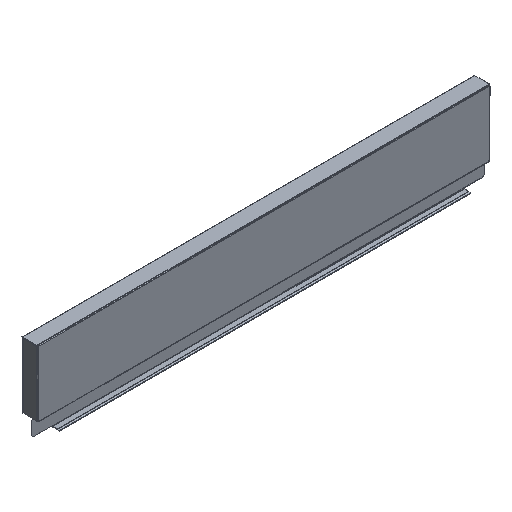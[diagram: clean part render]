
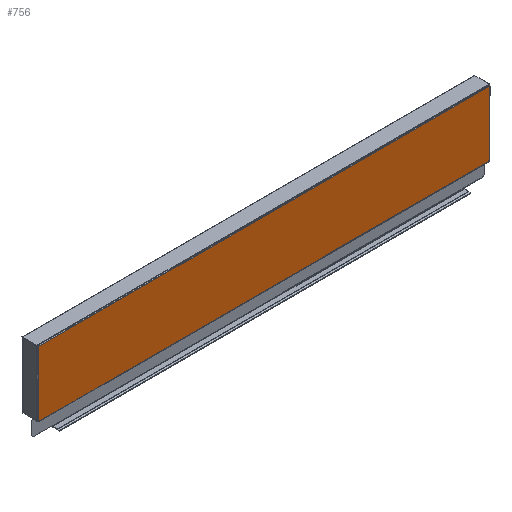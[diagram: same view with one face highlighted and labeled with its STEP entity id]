
A CAD part, isometric view. The second image highlights one B-rep face of the part: STEP entity #756.
In plain terms, the highlighted planar face has unit normal (0, -1, 0).
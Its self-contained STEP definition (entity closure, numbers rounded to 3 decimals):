
#212 = DIRECTION ( 'NONE',  ( 0., 0., -1. ) ) ;
#218 = CARTESIAN_POINT ( 'NONE',  ( 229., -6., 101.385 ) ) ;
#220 = VERTEX_POINT ( 'NONE', #436 ) ;
#256 = VERTEX_POINT ( 'NONE', #425 ) ;
#259 = VERTEX_POINT ( 'NONE', #424 ) ;
#262 = VERTEX_POINT ( 'NONE', #423 ) ;
#273 = VERTEX_POINT ( 'NONE', #418 ) ;
#282 = VERTEX_POINT ( 'NONE', #415 ) ;
#293 = VERTEX_POINT ( 'NONE', #410 ) ;
#301 = VERTEX_POINT ( 'NONE', #407 ) ;
#300 = DIRECTION ( 'NONE',  ( 0., 0., -1. ) ) ;
#308 = CARTESIAN_POINT ( 'NONE',  ( 229., -6., 101.385 ) ) ;
#327 = VERTEX_POINT ( 'NONE', #400 ) ;
#332 = VERTEX_POINT ( 'NONE', #399 ) ;
#393 = DIRECTION ( 'NONE',  ( 1., 0., 0. ) ) ;
#399 = CARTESIAN_POINT ( 'NONE',  ( 228.5, -6., 17. ) ) ;
#400 = CARTESIAN_POINT ( 'NONE',  ( 229., -6., 82.5 ) ) ;
#407 = CARTESIAN_POINT ( 'NONE',  ( -229., -6., 82.5 ) ) ;
#410 = CARTESIAN_POINT ( 'NONE',  ( -228.5, -6., 17. ) ) ;
#409 = CARTESIAN_POINT ( 'NONE',  ( 228.5, -6., 17.5 ) ) ;
#415 = CARTESIAN_POINT ( 'NONE',  ( 228.5, -6., 17.5 ) ) ;
#418 = CARTESIAN_POINT ( 'NONE',  ( -229., -6., 17.5 ) ) ;
#423 = CARTESIAN_POINT ( 'NONE',  ( -229., -6., 83. ) ) ;
#424 = CARTESIAN_POINT ( 'NONE',  ( 229., -6., 17.5 ) ) ;
#425 = CARTESIAN_POINT ( 'NONE',  ( -228.5, -6., 17.5 ) ) ;
#436 = CARTESIAN_POINT ( 'NONE',  ( 229., -6., 83. ) ) ;
#466 = DIRECTION ( 'NONE',  ( 0., 0., -1. ) ) ;
#469 = CARTESIAN_POINT ( 'NONE',  ( -229., -6., 101.385 ) ) ;
#473 = DIRECTION ( 'NONE',  ( 1., 0., 0. ) ) ;
#476 = CARTESIAN_POINT ( 'NONE',  ( -230., -6., 83. ) ) ;
#653 = CARTESIAN_POINT ( 'NONE',  ( -229., -6., 101.385 ) ) ;
#654 = DIRECTION ( 'NONE',  ( 0., 0., -1. ) ) ;
#655 = CARTESIAN_POINT ( 'NONE',  ( -230., -6., 17.5 ) ) ;
#656 = DIRECTION ( 'NONE',  ( 1., 0., 0. ) ) ;
#657 = CARTESIAN_POINT ( 'NONE',  ( -228.5, -6., 17.5 ) ) ;
#658 = DIRECTION ( 'NONE',  ( 0., 0., -1. ) ) ;
#659 = CARTESIAN_POINT ( 'NONE',  ( -230., -6., 17. ) ) ;
#660 = DIRECTION ( 'NONE',  ( 1., 0., 0. ) ) ;
#661 = CARTESIAN_POINT ( 'NONE',  ( 228.5, -6., 15.3 ) ) ;
#662 = DIRECTION ( 'NONE',  ( 0., 0., 1. ) ) ;
#756 = ADVANCED_FACE ( 'NONE', ( #2112 ), #1587, .T. ) ;
#952 = EDGE_LOOP ( 'NONE', ( #1950, #1949, #1948, #1947, #1946, #1945, #1944, #1943, #1942, #1941 ) ) ;
#1287 = AXIS2_PLACEMENT_3D ( 'NONE', #1586, #1584, #1583 ) ;
#1583 = DIRECTION ( 'NONE',  ( 1., 0., 0. ) ) ;
#1584 = DIRECTION ( 'NONE',  ( 0., -1., 0. ) ) ;
#1586 = CARTESIAN_POINT ( 'NONE',  ( -230., -6., 17. ) ) ;
#1587 = PLANE ( 'NONE',  #1287 ) ;
#1666 = EDGE_CURVE ( 'NONE', #282, #259, #2359, .T. ) ;
#1667 = EDGE_CURVE ( 'NONE', #327, #259, #2361, .T. ) ;
#1668 = EDGE_CURVE ( 'NONE', #220, #327, #2363, .T. ) ;
#1669 = EDGE_CURVE ( 'NONE', #262, #220, #2365, .T. ) ;
#1670 = EDGE_CURVE ( 'NONE', #262, #301, #2367, .T. ) ;
#1941 = ORIENTED_EDGE ( 'NONE', *, *, #1670, .T. ) ;
#1942 = ORIENTED_EDGE ( 'NONE', *, *, #1669, .F. ) ;
#1943 = ORIENTED_EDGE ( 'NONE', *, *, #1668, .F. ) ;
#1944 = ORIENTED_EDGE ( 'NONE', *, *, #1667, .F. ) ;
#1945 = ORIENTED_EDGE ( 'NONE', *, *, #1666, .T. ) ;
#1946 = ORIENTED_EDGE ( 'NONE', *, *, #2484, .T. ) ;
#1947 = ORIENTED_EDGE ( 'NONE', *, *, #2483, .T. ) ;
#1948 = ORIENTED_EDGE ( 'NONE', *, *, #2482, .T. ) ;
#1949 = ORIENTED_EDGE ( 'NONE', *, *, #2481, .T. ) ;
#1950 = ORIENTED_EDGE ( 'NONE', *, *, #2480, .T. ) ;
#2112 = FACE_OUTER_BOUND ( 'NONE', #952, .T. ) ;
#2359 = LINE ( 'NONE', #409, #2360 ) ;
#2360 = VECTOR ( 'NONE', #393, 1000. ) ;
#2361 = LINE ( 'NONE', #308, #2362 ) ;
#2362 = VECTOR ( 'NONE', #300, 1000. ) ;
#2363 = LINE ( 'NONE', #218, #2364 ) ;
#2364 = VECTOR ( 'NONE', #212, 1000. ) ;
#2365 = LINE ( 'NONE', #476, #2366 ) ;
#2366 = VECTOR ( 'NONE', #473, 1000. ) ;
#2367 = LINE ( 'NONE', #469, #2368 ) ;
#2368 = VECTOR ( 'NONE', #466, 1000. ) ;
#2436 = LINE ( 'NONE', #653, #2438 ) ;
#2438 = VECTOR ( 'NONE', #654, 1000. ) ;
#2439 = LINE ( 'NONE', #655, #2440 ) ;
#2440 = VECTOR ( 'NONE', #656, 1000. ) ;
#2441 = LINE ( 'NONE', #657, #2442 ) ;
#2442 = VECTOR ( 'NONE', #658, 1000. ) ;
#2443 = LINE ( 'NONE', #659, #2444 ) ;
#2444 = VECTOR ( 'NONE', #660, 1000. ) ;
#2445 = LINE ( 'NONE', #661, #2446 ) ;
#2446 = VECTOR ( 'NONE', #662, 1000. ) ;
#2480 = EDGE_CURVE ( 'NONE', #301, #273, #2436, .T. ) ;
#2481 = EDGE_CURVE ( 'NONE', #273, #256, #2439, .T. ) ;
#2482 = EDGE_CURVE ( 'NONE', #256, #293, #2441, .T. ) ;
#2483 = EDGE_CURVE ( 'NONE', #293, #332, #2443, .T. ) ;
#2484 = EDGE_CURVE ( 'NONE', #332, #282, #2445, .T. ) ;
